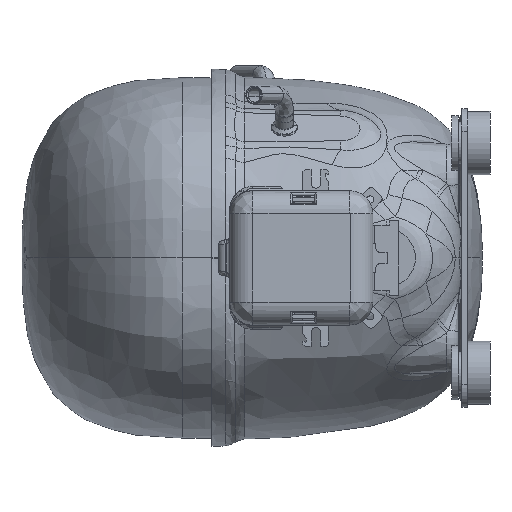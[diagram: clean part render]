
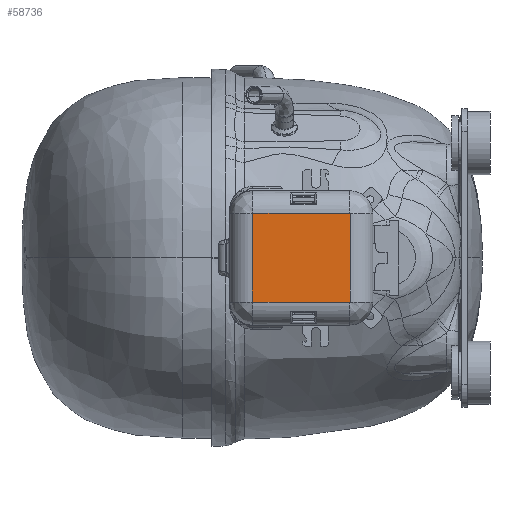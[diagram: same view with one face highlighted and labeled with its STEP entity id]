
A CAD part, left-side view. The second image highlights one B-rep face of the part: STEP entity #58736.
In plain terms, the highlighted planar face has unit normal (-1, 0, 0) as drawn and (0, -1, 0) by its records, which use the part's own axes.
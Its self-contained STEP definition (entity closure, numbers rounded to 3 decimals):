
#53533=CARTESIAN_POINT('',(19.5,-2.2,21.45));
#53534=DIRECTION('',(0.,-1.,0.));
#53535=DIRECTION('',(1.,0.,0.));
#53536=AXIS2_PLACEMENT_3D('',#53533,#53534,#53535);
#53538=DIRECTION('',(0.,0.,1.));
#53539=VECTOR('',#53538,42.9);
#53540=CARTESIAN_POINT('',(19.7,-2.2,-21.45));
#53541=LINE('',#53540,#53539);
#53542=CARTESIAN_POINT('',(19.5,-2.2,-21.45));
#53543=DIRECTION('',(0.,-1.,0.));
#53544=DIRECTION('',(0.,0.,-1.));
#53545=AXIS2_PLACEMENT_3D('',#53542,#53543,#53544);
#53547=DIRECTION('',(1.,0.,0.));
#53548=VECTOR('',#53547,39.);
#53549=CARTESIAN_POINT('',(-19.5,-2.2,-21.65));
#53550=LINE('',#53549,#53548);
#53551=CARTESIAN_POINT('',(-19.5,-2.2,-21.45));
#53552=DIRECTION('',(0.,-1.,0.));
#53553=DIRECTION('',(-1.,0.,0.));
#53554=AXIS2_PLACEMENT_3D('',#53551,#53552,#53553);
#53556=DIRECTION('',(0.,0.,-1.));
#53557=VECTOR('',#53556,42.9);
#53558=CARTESIAN_POINT('',(-19.7,-2.2,21.45));
#53559=LINE('',#53558,#53557);
#53560=CARTESIAN_POINT('',(-19.5,-2.2,21.45));
#53561=DIRECTION('',(0.,-1.,0.));
#53562=DIRECTION('',(0.,0.,1.));
#53563=AXIS2_PLACEMENT_3D('',#53560,#53561,#53562);
#53565=DIRECTION('',(-1.,0.,0.));
#53566=VECTOR('',#53565,39.);
#53567=CARTESIAN_POINT('',(19.5,-2.2,21.65));
#53568=LINE('',#53567,#53566);
#57867=CARTESIAN_POINT('',(19.7,-2.2,21.45));
#57868=CARTESIAN_POINT('',(19.5,-2.2,21.65));
#57869=VERTEX_POINT('',#57867);
#57870=VERTEX_POINT('',#57868);
#57875=CARTESIAN_POINT('',(-19.5,-2.2,21.65));
#57876=VERTEX_POINT('',#57875);
#57879=CARTESIAN_POINT('',(-19.7,-2.2,21.45));
#57880=VERTEX_POINT('',#57879);
#57883=CARTESIAN_POINT('',(-19.7,-2.2,-21.45));
#57884=VERTEX_POINT('',#57883);
#57887=CARTESIAN_POINT('',(-19.5,-2.2,-21.65));
#57888=CARTESIAN_POINT('',(19.5,-2.2,-21.65));
#57889=VERTEX_POINT('',#57887);
#57890=VERTEX_POINT('',#57888);
#57895=CARTESIAN_POINT('',(19.7,-2.2,-21.45));
#57896=VERTEX_POINT('',#57895);
#58713=CARTESIAN_POINT('',(0.,-2.2,0.));
#58714=DIRECTION('',(0.,1.,0.));
#58715=DIRECTION('',(1.,0.,0.));
#58716=AXIS2_PLACEMENT_3D('',#58713,#58714,#58715);
#58717=PLANE('',#58716);
#58719=ORIENTED_EDGE('',*,*,#58718,.F.);
#58721=ORIENTED_EDGE('',*,*,#58720,.F.);
#58723=ORIENTED_EDGE('',*,*,#58722,.F.);
#58725=ORIENTED_EDGE('',*,*,#58724,.F.);
#58727=ORIENTED_EDGE('',*,*,#58726,.F.);
#58729=ORIENTED_EDGE('',*,*,#58728,.F.);
#58731=ORIENTED_EDGE('',*,*,#58730,.F.);
#58733=ORIENTED_EDGE('',*,*,#58732,.F.);
#58734=EDGE_LOOP('',(#58719,#58721,#58723,#58725,#58727,#58729,#58731,#58733));
#58735=FACE_OUTER_BOUND('',#58734,.F.);
#58736=ADVANCED_FACE('',(#58735),#58717,.F.);
#53537=CIRCLE('',#53536,0.2);
#53546=CIRCLE('',#53545,0.2);
#53555=CIRCLE('',#53554,0.2);
#53564=CIRCLE('',#53563,0.2);
#58718=EDGE_CURVE('',#57869,#57870,#53537,.T.);
#58720=EDGE_CURVE('',#57896,#57869,#53541,.T.);
#58722=EDGE_CURVE('',#57890,#57896,#53546,.T.);
#58724=EDGE_CURVE('',#57889,#57890,#53550,.T.);
#58726=EDGE_CURVE('',#57884,#57889,#53555,.T.);
#58728=EDGE_CURVE('',#57880,#57884,#53559,.T.);
#58730=EDGE_CURVE('',#57876,#57880,#53564,.T.);
#58732=EDGE_CURVE('',#57870,#57876,#53568,.T.);
